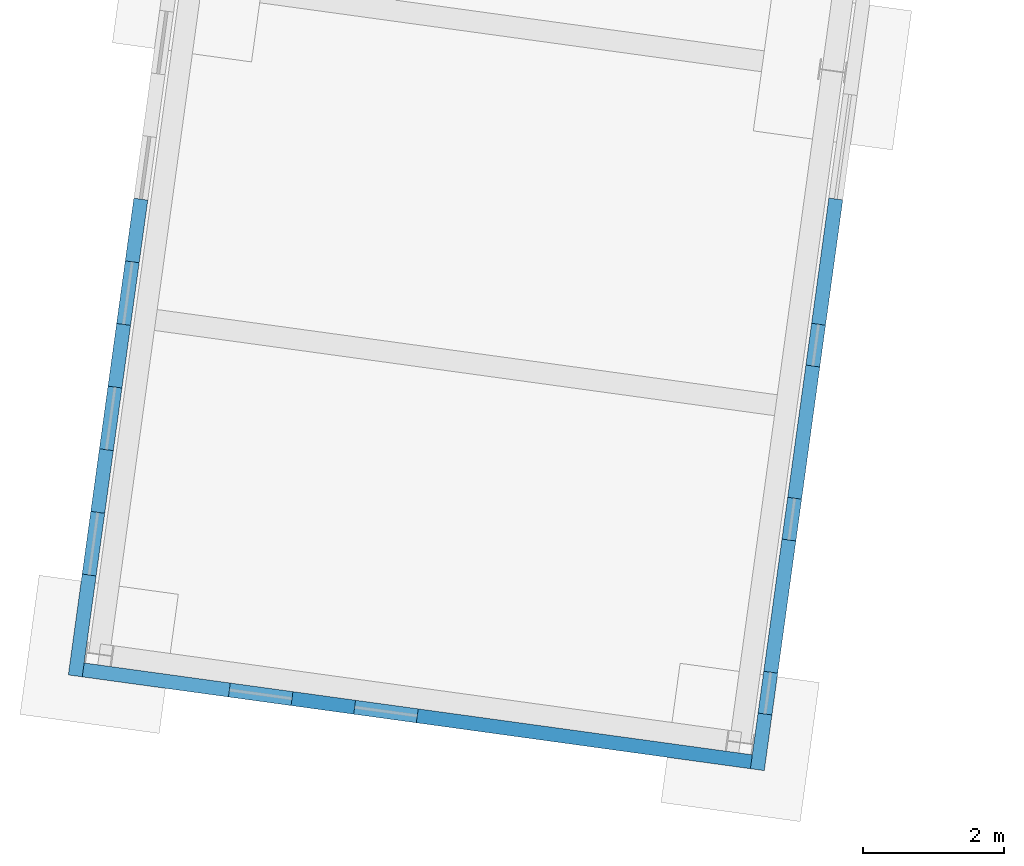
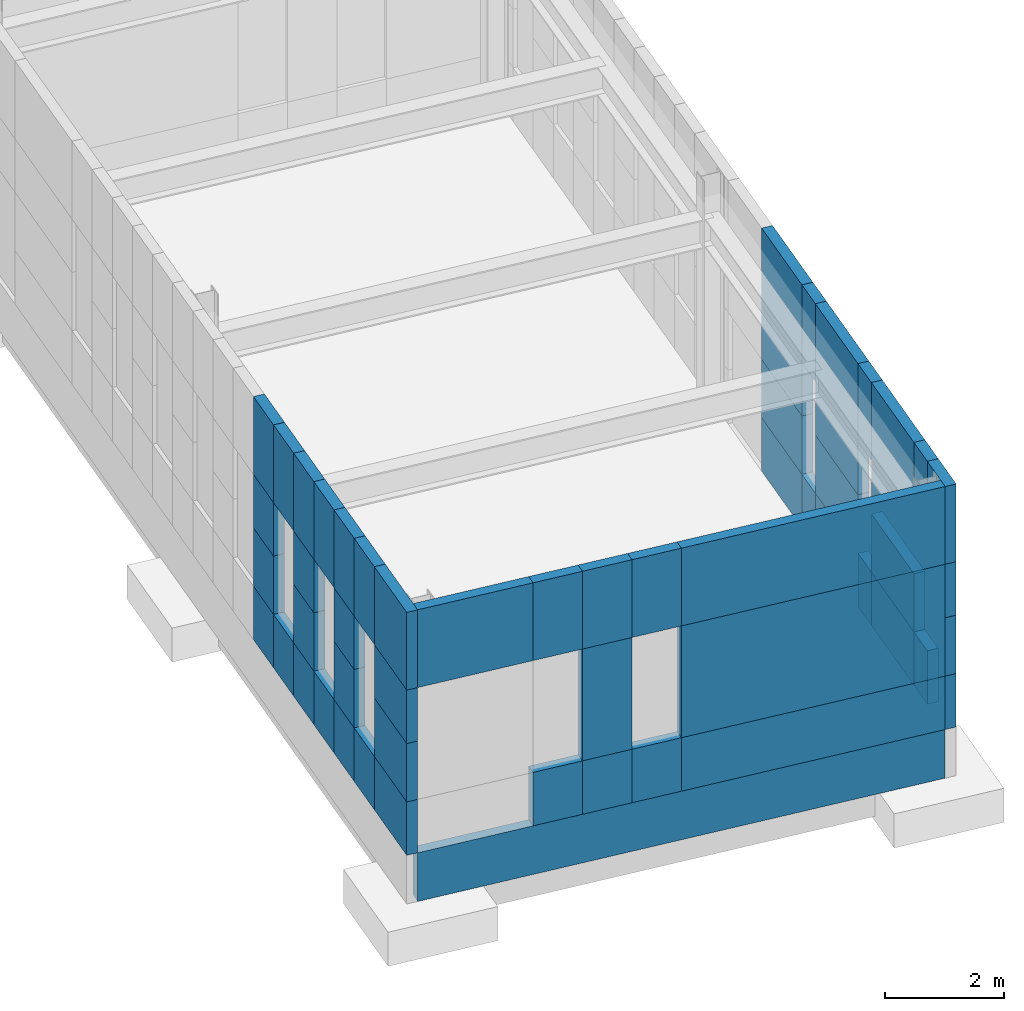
# One storey, part 2 of 5: 56 walls.
"""IFC4 building model written with IfcOpenShell, lengths in metres."""

from ifc_helpers import new_model, si_unit, direction, origin_with_axes, place, context, subcontext, project, spatial, triangles, material, element, save


model = new_model("IFC4")

# Units and contexts
model_context = context("Model", 3, precision=1e-05, world=origin_with_axes(), true_north=direction((0.0, 1.0)))
body_context = subcontext(model_context, "Body", "Model", "MODEL_VIEW")
ifc_project = project(units=[si_unit("AREAUNIT", "SQUARE_METRE"), si_unit("VOLUMEUNIT", "CUBIC_METRE"), si_unit("LENGTHUNIT", "METRE")], contexts=[model_context])

# Site, building, storey
site_placement = place(None, origin_with_axes())
site = spatial("IfcSite", under=ifc_project, at=site_placement, Name="Parcela industrial Jinhong")
building_placement = place(site_placement, origin_with_axes())
building = spatial("IfcBuilding", under=site, at=building_placement, Name="Edificio de oficinas")
storey_placement = place(building_placement, origin_with_axes())
storey = spatial("IfcBuildingStorey", under=building, at=storey_placement, Name="Planta baja", Elevation=0.9499999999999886)

# Walls
ifc_material_1 = material(Name="Bloque hueco de hormigón de árido ligero", Category="Material documentado")
wall_1_placement = place(storey_placement, origin_with_axes())
element("IfcWall", 1, at=wall_1_placement, inside=storey, material=ifc_material_1, Name="Edificio de oficinas · Fábrica de bloques huecos de hormigón de 200 mm · eje A · tramo 37", PredefinedType="STANDARD", context=body_context, shape_type="Tessellation", body=[
    triangles([(15.751554, 79.890375, 0.95), (15.62897, 78.998762, 0.95), (15.827106, 78.971522, 0.95), (15.94969, 79.863134, 0.95), (15.751554, 79.890375, 2.05), (15.62897, 78.998762, 2.05), (15.827106, 78.971522, 2.05), (15.94969, 79.863134, 2.05)], [[2, 1, 4], [4, 3, 2], [8, 5, 6], [6, 7, 8], [1, 2, 6], [1, 6, 5], [2, 3, 7], [2, 7, 6], [3, 4, 8], [3, 8, 7], [4, 1, 5], [4, 5, 8]], closed=True),
])
wall_2_placement = place(storey_placement, origin_with_axes())
element("IfcWall", 2, at=wall_2_placement, inside=storey, material=ifc_material_1, Name="Edificio de oficinas · Fábrica de bloques huecos de hormigón de 200 mm · eje A · tramo 38", PredefinedType="STANDARD", context=body_context, shape_type="Tessellation", body=[
    triangles([(15.751554, 79.890375, 2.05), (15.62897, 78.998762, 2.05), (15.827106, 78.971522, 2.05), (15.94969, 79.863134, 2.05), (15.751554, 79.890375, 3.25), (15.62897, 78.998762, 3.25), (15.827106, 78.971522, 3.25), (15.94969, 79.863134, 3.25)], [[2, 1, 4], [4, 3, 2], [8, 5, 6], [6, 7, 8], [1, 2, 6], [1, 6, 5], [2, 3, 7], [2, 7, 6], [3, 4, 8], [3, 8, 7], [4, 1, 5], [4, 5, 8]], closed=True),
])
wall_3_placement = place(storey_placement, origin_with_axes())
element("IfcWall", 3, at=wall_3_placement, inside=storey, material=ifc_material_1, Name="Edificio de oficinas · Fábrica de bloques huecos de hormigón de 200 mm · eje A · tramo 39", PredefinedType="STANDARD", context=body_context, shape_type="Tessellation", body=[
    triangles([(15.751554, 79.890375, 3.25), (15.62897, 78.998762, 3.25), (15.827106, 78.971522, 3.25), (15.94969, 79.863134, 3.25), (15.751554, 79.890375, 4.35), (15.62897, 78.998762, 4.35), (15.827106, 78.971522, 4.35), (15.94969, 79.863134, 4.35)], [[2, 1, 4], [4, 3, 2], [8, 5, 6], [6, 7, 8], [1, 2, 6], [1, 6, 5], [2, 3, 7], [2, 7, 6], [3, 4, 8], [3, 8, 7], [4, 1, 5], [4, 5, 8]], closed=True),
])
wall_4_placement = place(storey_placement, origin_with_axes())
element("IfcWall", 4, at=wall_4_placement, inside=storey, material=ifc_material_1, Name="Edificio de oficinas · Fábrica de bloques huecos de hormigón de 200 mm · eje A · tramo 40", PredefinedType="STANDARD", context=body_context, shape_type="Tessellation", body=[
    triangles([(15.751554, 79.890375, 4.35), (15.62897, 78.998762, 4.35), (15.827106, 78.971522, 4.35), (15.94969, 79.863134, 4.35), (15.751554, 79.890375, 5.95), (15.62897, 78.998762, 5.95), (15.827106, 78.971522, 5.95), (15.94969, 79.863134, 5.95)], [[2, 1, 4], [4, 3, 2], [8, 5, 6], [6, 7, 8], [1, 2, 6], [1, 6, 5], [2, 3, 7], [2, 7, 6], [3, 4, 8], [3, 8, 7], [4, 1, 5], [4, 5, 8]], closed=True),
])
wall_5_placement = place(storey_placement, origin_with_axes())
element("IfcWall", 5, at=wall_5_placement, inside=storey, material=ifc_material_1, Name="Edificio de oficinas · Fábrica de bloques huecos de hormigón de 200 mm · eje A · tramo 41", PredefinedType="STANDARD", context=body_context, shape_type="Tessellation", body=[
    triangles([(15.62897, 78.998762, 0.95), (15.506386, 78.10715, 0.95), (15.704523, 78.079909, 0.95), (15.827106, 78.971522, 0.95), (15.62897, 78.998762, 2.05), (15.506386, 78.10715, 2.05), (15.704523, 78.079909, 2.05), (15.827106, 78.971522, 2.05)], [[2, 1, 4], [4, 3, 2], [8, 5, 6], [6, 7, 8], [1, 2, 6], [1, 6, 5], [2, 3, 7], [2, 7, 6], [3, 4, 8], [3, 8, 7], [4, 1, 5], [4, 5, 8]], closed=True),
])
wall_6_placement = place(storey_placement, origin_with_axes())
element("IfcWall", 6, at=wall_6_placement, inside=storey, material=ifc_material_1, Name="Edificio de oficinas · Fábrica de bloques huecos de hormigón de 200 mm · eje A · tramo 42", PredefinedType="STANDARD", context=body_context, shape_type="Tessellation", body=[
    triangles([(15.62897, 78.998762, 4.35), (15.506386, 78.10715, 4.35), (15.704523, 78.079909, 4.35), (15.827106, 78.971522, 4.35), (15.62897, 78.998762, 5.95), (15.506386, 78.10715, 5.95), (15.704523, 78.079909, 5.95), (15.827106, 78.971522, 5.95)], [[2, 1, 4], [4, 3, 2], [8, 5, 6], [6, 7, 8], [1, 2, 6], [1, 6, 5], [2, 3, 7], [2, 7, 6], [3, 4, 8], [3, 8, 7], [4, 1, 5], [4, 5, 8]], closed=True),
])
wall_7_placement = place(storey_placement, origin_with_axes())
element("IfcWall", 7, at=wall_7_placement, inside=storey, material=ifc_material_1, Name="Edificio de oficinas · Fábrica de bloques huecos de hormigón de 200 mm · eje A · tramo 43", PredefinedType="STANDARD", context=body_context, shape_type="Tessellation", body=[
    triangles([(15.506386, 78.10715, 0.95), (15.383803, 77.215537, 0.95), (15.581939, 77.188296, 0.95), (15.704523, 78.079909, 0.95), (15.506386, 78.10715, 2.05), (15.383803, 77.215537, 2.05), (15.581939, 77.188296, 2.05), (15.704523, 78.079909, 2.05)], [[2, 1, 4], [4, 3, 2], [8, 5, 6], [6, 7, 8], [1, 2, 6], [1, 6, 5], [2, 3, 7], [2, 7, 6], [3, 4, 8], [3, 8, 7], [4, 1, 5], [4, 5, 8]], closed=True),
])
wall_8_placement = place(storey_placement, origin_with_axes())
element("IfcWall", 8, at=wall_8_placement, inside=storey, material=ifc_material_1, Name="Edificio de oficinas · Fábrica de bloques huecos de hormigón de 200 mm · eje A · tramo 44", PredefinedType="STANDARD", context=body_context, shape_type="Tessellation", body=[
    triangles([(15.506386, 78.10715, 2.05), (15.383803, 77.215537, 2.05), (15.581939, 77.188296, 2.05), (15.704523, 78.079909, 2.05), (15.506386, 78.10715, 3.25), (15.383803, 77.215537, 3.25), (15.581939, 77.188296, 3.25), (15.704523, 78.079909, 3.25)], [[2, 1, 4], [4, 3, 2], [8, 5, 6], [6, 7, 8], [1, 2, 6], [1, 6, 5], [2, 3, 7], [2, 7, 6], [3, 4, 8], [3, 8, 7], [4, 1, 5], [4, 5, 8]], closed=True),
])
wall_9_placement = place(storey_placement, origin_with_axes())
element("IfcWall", 9, at=wall_9_placement, inside=storey, material=ifc_material_1, Name="Edificio de oficinas · Fábrica de bloques huecos de hormigón de 200 mm · eje A · tramo 45", PredefinedType="STANDARD", context=body_context, shape_type="Tessellation", body=[
    triangles([(15.506386, 78.10715, 3.25), (15.383803, 77.215537, 3.25), (15.581939, 77.188296, 3.25), (15.704523, 78.079909, 3.25), (15.506386, 78.10715, 4.35), (15.383803, 77.215537, 4.35), (15.581939, 77.188296, 4.35), (15.704523, 78.079909, 4.35)], [[2, 1, 4], [4, 3, 2], [8, 5, 6], [6, 7, 8], [1, 2, 6], [1, 6, 5], [2, 3, 7], [2, 7, 6], [3, 4, 8], [3, 8, 7], [4, 1, 5], [4, 5, 8]], closed=True),
])
wall_10_placement = place(storey_placement, origin_with_axes())
element("IfcWall", 10, at=wall_10_placement, inside=storey, material=ifc_material_1, Name="Edificio de oficinas · Fábrica de bloques huecos de hormigón de 200 mm · eje A · tramo 46", PredefinedType="STANDARD", context=body_context, shape_type="Tessellation", body=[
    triangles([(15.506386, 78.10715, 4.35), (15.383803, 77.215537, 4.35), (15.581939, 77.188296, 4.35), (15.704523, 78.079909, 4.35), (15.506386, 78.10715, 5.95), (15.383803, 77.215537, 5.95), (15.581939, 77.188296, 5.95), (15.704523, 78.079909, 5.95)], [[2, 1, 4], [4, 3, 2], [8, 5, 6], [6, 7, 8], [1, 2, 6], [1, 6, 5], [2, 3, 7], [2, 7, 6], [3, 4, 8], [3, 8, 7], [4, 1, 5], [4, 5, 8]], closed=True),
])
wall_11_placement = place(storey_placement, origin_with_axes())
element("IfcWall", 11, at=wall_11_placement, inside=storey, material=ifc_material_1, Name="Edificio de oficinas · Fábrica de bloques huecos de hormigón de 200 mm · eje A · tramo 47", PredefinedType="STANDARD", context=body_context, shape_type="Tessellation", body=[
    triangles([(15.383803, 77.215537, 0.95), (15.261219, 76.323924, 0.95), (15.459356, 76.296683, 0.95), (15.581939, 77.188296, 0.95), (15.383803, 77.215537, 2.05), (15.261219, 76.323924, 2.05), (15.459356, 76.296683, 2.05), (15.581939, 77.188296, 2.05)], [[2, 1, 4], [4, 3, 2], [8, 5, 6], [6, 7, 8], [1, 2, 6], [1, 6, 5], [2, 3, 7], [2, 7, 6], [3, 4, 8], [3, 8, 7], [4, 1, 5], [4, 5, 8]], closed=True),
])
wall_12_placement = place(storey_placement, origin_with_axes())
element("IfcWall", 12, at=wall_12_placement, inside=storey, material=ifc_material_1, Name="Edificio de oficinas · Fábrica de bloques huecos de hormigón de 200 mm · eje A · tramo 48", PredefinedType="STANDARD", context=body_context, shape_type="Tessellation", body=[
    triangles([(15.383803, 77.215537, 4.35), (15.261219, 76.323924, 4.35), (15.459356, 76.296683, 4.35), (15.581939, 77.188296, 4.35), (15.383803, 77.215537, 5.95), (15.261219, 76.323924, 5.95), (15.459356, 76.296683, 5.95), (15.581939, 77.188296, 5.95)], [[2, 1, 4], [4, 3, 2], [8, 5, 6], [6, 7, 8], [1, 2, 6], [1, 6, 5], [2, 3, 7], [2, 7, 6], [3, 4, 8], [3, 8, 7], [4, 1, 5], [4, 5, 8]], closed=True),
])
wall_13_placement = place(storey_placement, origin_with_axes())
element("IfcWall", 13, at=wall_13_placement, inside=storey, material=ifc_material_1, Name="Edificio de oficinas · Fábrica de bloques huecos de hormigón de 200 mm · eje A · tramo 49", PredefinedType="STANDARD", context=body_context, shape_type="Tessellation", body=[
    triangles([(15.261219, 76.323924, 0.95), (15.138636, 75.432311, 0.95), (15.336772, 75.405071, 0.95), (15.459356, 76.296683, 0.95), (15.261219, 76.323924, 2.05), (15.138636, 75.432311, 2.05), (15.336772, 75.405071, 2.05), (15.459356, 76.296683, 2.05)], [[2, 1, 4], [4, 3, 2], [8, 5, 6], [6, 7, 8], [1, 2, 6], [1, 6, 5], [2, 3, 7], [2, 7, 6], [3, 4, 8], [3, 8, 7], [4, 1, 5], [4, 5, 8]], closed=True),
])
wall_14_placement = place(storey_placement, origin_with_axes())
element("IfcWall", 14, at=wall_14_placement, inside=storey, material=ifc_material_1, Name="Edificio de oficinas · Fábrica de bloques huecos de hormigón de 200 mm · eje A · tramo 50", PredefinedType="STANDARD", context=body_context, shape_type="Tessellation", body=[
    triangles([(15.261219, 76.323924, 2.05), (15.138636, 75.432311, 2.05), (15.336772, 75.405071, 2.05), (15.459356, 76.296683, 2.05), (15.261219, 76.323924, 3.25), (15.138636, 75.432311, 3.25), (15.336772, 75.405071, 3.25), (15.459356, 76.296683, 3.25)], [[2, 1, 4], [4, 3, 2], [8, 5, 6], [6, 7, 8], [1, 2, 6], [1, 6, 5], [2, 3, 7], [2, 7, 6], [3, 4, 8], [3, 8, 7], [4, 1, 5], [4, 5, 8]], closed=True),
])
wall_15_placement = place(storey_placement, origin_with_axes())
element("IfcWall", 15, at=wall_15_placement, inside=storey, material=ifc_material_1, Name="Edificio de oficinas · Fábrica de bloques huecos de hormigón de 200 mm · eje A · tramo 51", PredefinedType="STANDARD", context=body_context, shape_type="Tessellation", body=[
    triangles([(15.261219, 76.323924, 3.25), (15.138636, 75.432311, 3.25), (15.336772, 75.405071, 3.25), (15.459356, 76.296683, 3.25), (15.261219, 76.323924, 4.35), (15.138636, 75.432311, 4.35), (15.336772, 75.405071, 4.35), (15.459356, 76.296683, 4.35)], [[2, 1, 4], [4, 3, 2], [8, 5, 6], [6, 7, 8], [1, 2, 6], [1, 6, 5], [2, 3, 7], [2, 7, 6], [3, 4, 8], [3, 8, 7], [4, 1, 5], [4, 5, 8]], closed=True),
])
wall_16_placement = place(storey_placement, origin_with_axes())
element("IfcWall", 16, at=wall_16_placement, inside=storey, material=ifc_material_1, Name="Edificio de oficinas · Fábrica de bloques huecos de hormigón de 200 mm · eje A · tramo 52", PredefinedType="STANDARD", context=body_context, shape_type="Tessellation", body=[
    triangles([(15.261219, 76.323924, 4.35), (15.138636, 75.432311, 4.35), (15.336772, 75.405071, 4.35), (15.459356, 76.296683, 4.35), (15.261219, 76.323924, 5.95), (15.138636, 75.432311, 5.95), (15.336772, 75.405071, 5.95), (15.459356, 76.296683, 5.95)], [[2, 1, 4], [4, 3, 2], [8, 5, 6], [6, 7, 8], [1, 2, 6], [1, 6, 5], [2, 3, 7], [2, 7, 6], [3, 4, 8], [3, 8, 7], [4, 1, 5], [4, 5, 8]], closed=True),
])
wall_17_placement = place(storey_placement, origin_with_axes())
element("IfcWall", 17, at=wall_17_placement, inside=storey, material=ifc_material_1, Name="Edificio de oficinas · Fábrica de bloques huecos de hormigón de 200 mm · eje A · tramo 53", PredefinedType="STANDARD", context=body_context, shape_type="Tessellation", body=[
    triangles([(15.138636, 75.432311, 0.95), (15.016052, 74.540699, 0.95), (15.214188, 74.513458, 0.95), (15.336772, 75.405071, 0.95), (15.138636, 75.432311, 2.05), (15.016052, 74.540699, 2.05), (15.214188, 74.513458, 2.05), (15.336772, 75.405071, 2.05)], [[2, 1, 4], [4, 3, 2], [8, 5, 6], [6, 7, 8], [1, 2, 6], [1, 6, 5], [2, 3, 7], [2, 7, 6], [3, 4, 8], [3, 8, 7], [4, 1, 5], [4, 5, 8]], closed=True),
])
wall_18_placement = place(storey_placement, origin_with_axes())
element("IfcWall", 18, at=wall_18_placement, inside=storey, material=ifc_material_1, Name="Edificio de oficinas · Fábrica de bloques huecos de hormigón de 200 mm · eje A · tramo 54", PredefinedType="STANDARD", context=body_context, shape_type="Tessellation", body=[
    triangles([(15.138636, 75.432311, 4.35), (15.016052, 74.540699, 4.35), (15.214188, 74.513458, 4.35), (15.336772, 75.405071, 4.35), (15.138636, 75.432311, 5.95), (15.016052, 74.540699, 5.95), (15.214188, 74.513458, 5.95), (15.336772, 75.405071, 5.95)], [[2, 1, 4], [4, 3, 2], [8, 5, 6], [6, 7, 8], [1, 2, 6], [1, 6, 5], [2, 3, 7], [2, 7, 6], [3, 4, 8], [3, 8, 7], [4, 1, 5], [4, 5, 8]], closed=True),
])
wall_19_placement = place(storey_placement, origin_with_axes())
element("IfcWall", 19, at=wall_19_placement, inside=storey, material=ifc_material_1, Name="Edificio de oficinas · Fábrica de bloques huecos de hormigón de 200 mm · eje A · tramo 55", PredefinedType="STANDARD", context=body_context, shape_type="Tessellation", body=[
    triangles([(15.016052, 74.540699, 0.95), (14.818557, 73.104211, 0.95), (15.016693, 73.076971, 0.95), (15.214188, 74.513458, 0.95), (15.016052, 74.540699, 2.05), (14.818557, 73.104211, 2.05), (15.016693, 73.076971, 2.05), (15.214188, 74.513458, 2.05)], [[2, 1, 4], [4, 3, 2], [8, 5, 6], [6, 7, 8], [1, 2, 6], [1, 6, 5], [2, 3, 7], [2, 7, 6], [3, 4, 8], [3, 8, 7], [4, 1, 5], [4, 5, 8]], closed=True),
])
wall_20_placement = place(storey_placement, origin_with_axes())
element("IfcWall", 20, at=wall_20_placement, inside=storey, material=ifc_material_1, Name="Edificio de oficinas · Fábrica de bloques huecos de hormigón de 200 mm · eje A · tramo 56", PredefinedType="STANDARD", context=body_context, shape_type="Tessellation", body=[
    triangles([(15.016052, 74.540699, 2.05), (14.818557, 73.104211, 2.05), (15.016693, 73.076971, 2.05), (15.214188, 74.513458, 2.05), (15.016052, 74.540699, 3.25), (14.818557, 73.104211, 3.25), (15.016693, 73.076971, 3.25), (15.214188, 74.513458, 3.25)], [[2, 1, 4], [4, 3, 2], [8, 5, 6], [6, 7, 8], [1, 2, 6], [1, 6, 5], [2, 3, 7], [2, 7, 6], [3, 4, 8], [3, 8, 7], [4, 1, 5], [4, 5, 8]], closed=True),
])
wall_21_placement = place(storey_placement, origin_with_axes())
element("IfcWall", 21, at=wall_21_placement, inside=storey, material=ifc_material_1, Name="Edificio de oficinas · Fábrica de bloques huecos de hormigón de 200 mm · eje A · tramo 57", PredefinedType="STANDARD", context=body_context, shape_type="Tessellation", body=[
    triangles([(15.016052, 74.540699, 3.25), (14.818557, 73.104211, 3.25), (15.016693, 73.076971, 3.25), (15.214188, 74.513458, 3.25), (15.016052, 74.540699, 4.35), (14.818557, 73.104211, 4.35), (15.016693, 73.076971, 4.35), (15.214188, 74.513458, 4.35)], [[2, 1, 4], [4, 3, 2], [8, 5, 6], [6, 7, 8], [1, 2, 6], [1, 6, 5], [2, 3, 7], [2, 7, 6], [3, 4, 8], [3, 8, 7], [4, 1, 5], [4, 5, 8]], closed=True),
])
wall_22_placement = place(storey_placement, origin_with_axes())
element("IfcWall", 22, at=wall_22_placement, inside=storey, material=ifc_material_1, Name="Edificio de oficinas · Fábrica de bloques huecos de hormigón de 200 mm · eje A · tramo 58", PredefinedType="STANDARD", context=body_context, shape_type="Tessellation", body=[
    triangles([(15.016052, 74.540699, 4.35), (14.818557, 73.104211, 4.35), (15.016693, 73.076971, 4.35), (15.214188, 74.513458, 4.35), (15.016052, 74.540699, 5.95), (14.818557, 73.104211, 5.95), (15.016693, 73.076971, 5.95), (15.214188, 74.513458, 5.95)], [[2, 1, 4], [4, 3, 2], [8, 5, 6], [6, 7, 8], [1, 2, 6], [1, 6, 5], [2, 3, 7], [2, 7, 6], [3, 4, 8], [3, 8, 7], [4, 1, 5], [4, 5, 8]], closed=True),
])
wall_23_placement = place(storey_placement, origin_with_axes())
element("IfcWall", 23, at=wall_23_placement, inside=storey, material=ifc_material_1, Name="Edificio de oficinas · Fábrica de bloques huecos de hormigón de 200 mm · eje B · tramo 37", PredefinedType="STANDARD", context=body_context, shape_type="Tessellation", body=[
    triangles([(25.644101, 79.892996, 0.95), (25.398934, 78.10977, 0.95), (25.59707, 78.082529, 0.95), (25.842237, 79.865755, 0.95), (25.644101, 79.892996, 2.05), (25.398934, 78.10977, 2.05), (25.59707, 78.082529, 2.05), (25.842237, 79.865755, 2.05)], [[2, 1, 4], [4, 3, 2], [8, 5, 6], [6, 7, 8], [1, 2, 6], [1, 6, 5], [2, 3, 7], [2, 7, 6], [3, 4, 8], [3, 8, 7], [4, 1, 5], [4, 5, 8]], closed=True),
])
wall_24_placement = place(storey_placement, origin_with_axes())
element("IfcWall", 24, at=wall_24_placement, inside=storey, material=ifc_material_1, Name="Edificio de oficinas · Fábrica de bloques huecos de hormigón de 200 mm · eje B · tramo 38", PredefinedType="STANDARD", context=body_context, shape_type="Tessellation", body=[
    triangles([(25.644101, 79.892996, 2.05), (25.398934, 78.10977, 2.05), (25.59707, 78.082529, 2.05), (25.842237, 79.865755, 2.05), (25.644101, 79.892996, 3.25), (25.398934, 78.10977, 3.25), (25.59707, 78.082529, 3.25), (25.842237, 79.865755, 3.25)], [[2, 1, 4], [4, 3, 2], [8, 5, 6], [6, 7, 8], [1, 2, 6], [1, 6, 5], [2, 3, 7], [2, 7, 6], [3, 4, 8], [3, 8, 7], [4, 1, 5], [4, 5, 8]], closed=True),
])
wall_25_placement = place(storey_placement, origin_with_axes())
element("IfcWall", 25, at=wall_25_placement, inside=storey, material=ifc_material_1, Name="Edificio de oficinas · Fábrica de bloques huecos de hormigón de 200 mm · eje B · tramo 39", PredefinedType="STANDARD", context=body_context, shape_type="Tessellation", body=[
    triangles([(25.644101, 79.892996, 3.25), (25.398934, 78.10977, 3.25), (25.59707, 78.082529, 3.25), (25.842237, 79.865755, 3.25), (25.644101, 79.892996, 4.35), (25.398934, 78.10977, 4.35), (25.59707, 78.082529, 4.35), (25.842237, 79.865755, 4.35)], [[2, 1, 4], [4, 3, 2], [8, 5, 6], [6, 7, 8], [1, 2, 6], [1, 6, 5], [2, 3, 7], [2, 7, 6], [3, 4, 8], [3, 8, 7], [4, 1, 5], [4, 5, 8]], closed=True),
])
wall_26_placement = place(storey_placement, origin_with_axes())
element("IfcWall", 26, at=wall_26_placement, inside=storey, material=ifc_material_1, Name="Edificio de oficinas · Fábrica de bloques huecos de hormigón de 200 mm · eje B · tramo 40", PredefinedType="STANDARD", context=body_context, shape_type="Tessellation", body=[
    triangles([(25.644101, 79.892996, 4.35), (25.398934, 78.10977, 4.35), (25.59707, 78.082529, 4.35), (25.842237, 79.865755, 4.35), (25.644101, 79.892996, 5.95), (25.398934, 78.10977, 5.95), (25.59707, 78.082529, 5.95), (25.842237, 79.865755, 5.95)], [[2, 1, 4], [4, 3, 2], [8, 5, 6], [6, 7, 8], [1, 2, 6], [1, 6, 5], [2, 3, 7], [2, 7, 6], [3, 4, 8], [3, 8, 7], [4, 1, 5], [4, 5, 8]], closed=True),
])
wall_27_placement = place(storey_placement, origin_with_axes())
element("IfcWall", 27, at=wall_27_placement, inside=storey, material=ifc_material_1, Name="Edificio de oficinas · Fábrica de bloques huecos de hormigón de 200 mm · eje B · tramo 41", PredefinedType="STANDARD", context=body_context, shape_type="Tessellation", body=[
    triangles([(25.398934, 78.10977, 0.95), (25.317211, 77.515362, 0.95), (25.515348, 77.488121, 0.95), (25.59707, 78.082529, 0.95), (25.398934, 78.10977, 2.05), (25.317211, 77.515362, 2.05), (25.515348, 77.488121, 2.05), (25.59707, 78.082529, 2.05)], [[2, 1, 4], [4, 3, 2], [8, 5, 6], [6, 7, 8], [1, 2, 6], [1, 6, 5], [2, 3, 7], [2, 7, 6], [3, 4, 8], [3, 8, 7], [4, 1, 5], [4, 5, 8]], closed=True),
])
wall_28_placement = place(storey_placement, origin_with_axes())
element("IfcWall", 28, at=wall_28_placement, inside=storey, material=ifc_material_1, Name="Edificio de oficinas · Fábrica de bloques huecos de hormigón de 200 mm · eje B · tramo 42", PredefinedType="STANDARD", context=body_context, shape_type="Tessellation", body=[
    triangles([(25.398934, 78.10977, 4.35), (25.317211, 77.515362, 4.35), (25.515348, 77.488121, 4.35), (25.59707, 78.082529, 4.35), (25.398934, 78.10977, 5.95), (25.317211, 77.515362, 5.95), (25.515348, 77.488121, 5.95), (25.59707, 78.082529, 5.95)], [[2, 1, 4], [4, 3, 2], [8, 5, 6], [6, 7, 8], [1, 2, 6], [1, 6, 5], [2, 3, 7], [2, 7, 6], [3, 4, 8], [3, 8, 7], [4, 1, 5], [4, 5, 8]], closed=True),
])
wall_29_placement = place(storey_placement, origin_with_axes())
element("IfcWall", 29, at=wall_29_placement, inside=storey, material=ifc_material_1, Name="Edificio de oficinas · Fábrica de bloques huecos de hormigón de 200 mm · eje B · tramo 43", PredefinedType="STANDARD", context=body_context, shape_type="Tessellation", body=[
    triangles([(25.317211, 77.515362, 0.95), (25.058424, 75.633068, 0.95), (25.25656, 75.605827, 0.95), (25.515348, 77.488121, 0.95), (25.317211, 77.515362, 2.05), (25.058424, 75.633068, 2.05), (25.25656, 75.605827, 2.05), (25.515348, 77.488121, 2.05)], [[2, 1, 4], [4, 3, 2], [8, 5, 6], [6, 7, 8], [1, 2, 6], [1, 6, 5], [2, 3, 7], [2, 7, 6], [3, 4, 8], [3, 8, 7], [4, 1, 5], [4, 5, 8]], closed=True),
])
wall_30_placement = place(storey_placement, origin_with_axes())
element("IfcWall", 30, at=wall_30_placement, inside=storey, material=ifc_material_1, Name="Edificio de oficinas · Fábrica de bloques huecos de hormigón de 200 mm · eje B · tramo 44", PredefinedType="STANDARD", context=body_context, shape_type="Tessellation", body=[
    triangles([(25.317211, 77.515362, 2.05), (25.058424, 75.633068, 2.05), (25.25656, 75.605827, 2.05), (25.515348, 77.488121, 2.05), (25.317211, 77.515362, 3.25), (25.058424, 75.633068, 3.25), (25.25656, 75.605827, 3.25), (25.515348, 77.488121, 3.25)], [[2, 1, 4], [4, 3, 2], [8, 5, 6], [6, 7, 8], [1, 2, 6], [1, 6, 5], [2, 3, 7], [2, 7, 6], [3, 4, 8], [3, 8, 7], [4, 1, 5], [4, 5, 8]], closed=True),
])
wall_31_placement = place(storey_placement, origin_with_axes())
element("IfcWall", 31, at=wall_31_placement, inside=storey, material=ifc_material_1, Name="Edificio de oficinas · Fábrica de bloques huecos de hormigón de 200 mm · eje B · tramo 45", PredefinedType="STANDARD", context=body_context, shape_type="Tessellation", body=[
    triangles([(25.317211, 77.515362, 3.25), (25.058424, 75.633068, 3.25), (25.25656, 75.605827, 3.25), (25.515348, 77.488121, 3.25), (25.317211, 77.515362, 4.35), (25.058424, 75.633068, 4.35), (25.25656, 75.605827, 4.35), (25.515348, 77.488121, 4.35)], [[2, 1, 4], [4, 3, 2], [8, 5, 6], [6, 7, 8], [1, 2, 6], [1, 6, 5], [2, 3, 7], [2, 7, 6], [3, 4, 8], [3, 8, 7], [4, 1, 5], [4, 5, 8]], closed=True),
])
wall_32_placement = place(storey_placement, origin_with_axes())
element("IfcWall", 32, at=wall_32_placement, inside=storey, material=ifc_material_1, Name="Edificio de oficinas · Fábrica de bloques huecos de hormigón de 200 mm · eje B · tramo 46", PredefinedType="STANDARD", context=body_context, shape_type="Tessellation", body=[
    triangles([(25.317211, 77.515362, 4.35), (25.058424, 75.633068, 4.35), (25.25656, 75.605827, 4.35), (25.515348, 77.488121, 4.35), (25.317211, 77.515362, 5.95), (25.058424, 75.633068, 5.95), (25.25656, 75.605827, 5.95), (25.515348, 77.488121, 5.95)], [[2, 1, 4], [4, 3, 2], [8, 5, 6], [6, 7, 8], [1, 2, 6], [1, 6, 5], [2, 3, 7], [2, 7, 6], [3, 4, 8], [3, 8, 7], [4, 1, 5], [4, 5, 8]], closed=True),
])
wall_33_placement = place(storey_placement, origin_with_axes())
element("IfcWall", 33, at=wall_33_placement, inside=storey, material=ifc_material_1, Name="Edificio de oficinas · Fábrica de bloques huecos de hormigón de 200 mm · eje B · tramo 47", PredefinedType="STANDARD", context=body_context, shape_type="Tessellation", body=[
    triangles([(25.058424, 75.633068, 0.95), (24.976702, 75.03866, 0.95), (25.174838, 75.011419, 0.95), (25.25656, 75.605827, 0.95), (25.058424, 75.633068, 2.05), (24.976702, 75.03866, 2.05), (25.174838, 75.011419, 2.05), (25.25656, 75.605827, 2.05)], [[2, 1, 4], [4, 3, 2], [8, 5, 6], [6, 7, 8], [1, 2, 6], [1, 6, 5], [2, 3, 7], [2, 7, 6], [3, 4, 8], [3, 8, 7], [4, 1, 5], [4, 5, 8]], closed=True),
])
wall_34_placement = place(storey_placement, origin_with_axes())
element("IfcWall", 34, at=wall_34_placement, inside=storey, material=ifc_material_1, Name="Edificio de oficinas · Fábrica de bloques huecos de hormigón de 200 mm · eje B · tramo 48", PredefinedType="STANDARD", context=body_context, shape_type="Tessellation", body=[
    triangles([(25.058424, 75.633068, 4.35), (24.976702, 75.03866, 4.35), (25.174838, 75.011419, 4.35), (25.25656, 75.605827, 4.35), (25.058424, 75.633068, 5.95), (24.976702, 75.03866, 5.95), (25.174838, 75.011419, 5.95), (25.25656, 75.605827, 5.95)], [[2, 1, 4], [4, 3, 2], [8, 5, 6], [6, 7, 8], [1, 2, 6], [1, 6, 5], [2, 3, 7], [2, 7, 6], [3, 4, 8], [3, 8, 7], [4, 1, 5], [4, 5, 8]], closed=True),
])
wall_35_placement = place(storey_placement, origin_with_axes())
element("IfcWall", 35, at=wall_35_placement, inside=storey, material=ifc_material_1, Name="Edificio de oficinas · Fábrica de bloques huecos de hormigón de 200 mm · eje B · tramo 49", PredefinedType="STANDARD", context=body_context, shape_type="Tessellation", body=[
    triangles([(24.976702, 75.03866, 0.95), (24.717914, 73.156366, 0.95), (24.91605, 73.129125, 0.95), (25.174838, 75.011419, 0.95), (24.976702, 75.03866, 2.05), (24.717914, 73.156366, 2.05), (24.91605, 73.129125, 2.05), (25.174838, 75.011419, 2.05)], [[2, 1, 4], [4, 3, 2], [8, 5, 6], [6, 7, 8], [1, 2, 6], [1, 6, 5], [2, 3, 7], [2, 7, 6], [3, 4, 8], [3, 8, 7], [4, 1, 5], [4, 5, 8]], closed=True),
])
wall_36_placement = place(storey_placement, origin_with_axes())
element("IfcWall", 36, at=wall_36_placement, inside=storey, material=ifc_material_1, Name="Edificio de oficinas · Fábrica de bloques huecos de hormigón de 200 mm · eje B · tramo 50", PredefinedType="STANDARD", context=body_context, shape_type="Tessellation", body=[
    triangles([(24.976702, 75.03866, 2.05), (24.717914, 73.156366, 2.05), (24.91605, 73.129125, 2.05), (25.174838, 75.011419, 2.05), (24.976702, 75.03866, 3.25), (24.717914, 73.156366, 3.25), (24.91605, 73.129125, 3.25), (25.174838, 75.011419, 3.25)], [[2, 1, 4], [4, 3, 2], [8, 5, 6], [6, 7, 8], [1, 2, 6], [1, 6, 5], [2, 3, 7], [2, 7, 6], [3, 4, 8], [3, 8, 7], [4, 1, 5], [4, 5, 8]], closed=True),
])
wall_37_placement = place(storey_placement, origin_with_axes())
element("IfcWall", 37, at=wall_37_placement, inside=storey, material=ifc_material_1, Name="Edificio de oficinas · Fábrica de bloques huecos de hormigón de 200 mm · eje B · tramo 51", PredefinedType="STANDARD", context=body_context, shape_type="Tessellation", body=[
    triangles([(24.976702, 75.03866, 3.25), (24.717914, 73.156366, 3.25), (24.91605, 73.129125, 3.25), (25.174838, 75.011419, 3.25), (24.976702, 75.03866, 4.35), (24.717914, 73.156366, 4.35), (24.91605, 73.129125, 4.35), (25.174838, 75.011419, 4.35)], [[2, 1, 4], [4, 3, 2], [8, 5, 6], [6, 7, 8], [1, 2, 6], [1, 6, 5], [2, 3, 7], [2, 7, 6], [3, 4, 8], [3, 8, 7], [4, 1, 5], [4, 5, 8]], closed=True),
])
wall_38_placement = place(storey_placement, origin_with_axes())
element("IfcWall", 38, at=wall_38_placement, inside=storey, material=ifc_material_1, Name="Edificio de oficinas · Fábrica de bloques huecos de hormigón de 200 mm · eje B · tramo 52", PredefinedType="STANDARD", context=body_context, shape_type="Tessellation", body=[
    triangles([(24.976702, 75.03866, 4.35), (24.717914, 73.156366, 4.35), (24.91605, 73.129125, 4.35), (25.174838, 75.011419, 4.35), (24.976702, 75.03866, 5.95), (24.717914, 73.156366, 5.95), (24.91605, 73.129125, 5.95), (25.174838, 75.011419, 5.95)], [[2, 1, 4], [4, 3, 2], [8, 5, 6], [6, 7, 8], [1, 2, 6], [1, 6, 5], [2, 3, 7], [2, 7, 6], [3, 4, 8], [3, 8, 7], [4, 1, 5], [4, 5, 8]], closed=True),
])
wall_39_placement = place(storey_placement, origin_with_axes())
element("IfcWall", 39, at=wall_39_placement, inside=storey, material=ifc_material_1, Name="Edificio de oficinas · Fábrica de bloques huecos de hormigón de 200 mm · eje B · tramo 53", PredefinedType="STANDARD", context=body_context, shape_type="Tessellation", body=[
    triangles([(24.717914, 73.156366, 0.95), (24.636192, 72.561958, 0.95), (24.834328, 72.534717, 0.95), (24.91605, 73.129125, 0.95), (24.717914, 73.156366, 2.05), (24.636192, 72.561958, 2.05), (24.834328, 72.534717, 2.05), (24.91605, 73.129125, 2.05)], [[2, 1, 4], [4, 3, 2], [8, 5, 6], [6, 7, 8], [1, 2, 6], [1, 6, 5], [2, 3, 7], [2, 7, 6], [3, 4, 8], [3, 8, 7], [4, 1, 5], [4, 5, 8]], closed=True),
])
wall_40_placement = place(storey_placement, origin_with_axes())
element("IfcWall", 40, at=wall_40_placement, inside=storey, material=ifc_material_1, Name="Edificio de oficinas · Fábrica de bloques huecos de hormigón de 200 mm · eje B · tramo 54", PredefinedType="STANDARD", context=body_context, shape_type="Tessellation", body=[
    triangles([(24.717914, 73.156366, 4.35), (24.636192, 72.561958, 4.35), (24.834328, 72.534717, 4.35), (24.91605, 73.129125, 4.35), (24.717914, 73.156366, 5.95), (24.636192, 72.561958, 5.95), (24.834328, 72.534717, 5.95), (24.91605, 73.129125, 5.95)], [[2, 1, 4], [4, 3, 2], [8, 5, 6], [6, 7, 8], [1, 2, 6], [1, 6, 5], [2, 3, 7], [2, 7, 6], [3, 4, 8], [3, 8, 7], [4, 1, 5], [4, 5, 8]], closed=True),
])
wall_41_placement = place(storey_placement, origin_with_axes())
element("IfcWall", 41, at=wall_41_placement, inside=storey, material=ifc_material_1, Name="Edificio de oficinas · Fábrica de bloques huecos de hormigón de 200 mm · eje B · tramo 55", PredefinedType="STANDARD", context=body_context, shape_type="Tessellation", body=[
    triangles([(24.636192, 72.561958, 0.95), (24.527229, 71.769413, 0.95), (24.725365, 71.742172, 0.95), (24.834328, 72.534717, 0.95), (24.636192, 72.561958, 2.05), (24.527229, 71.769413, 2.05), (24.725365, 71.742172, 2.05), (24.834328, 72.534717, 2.05)], [[2, 1, 4], [4, 3, 2], [8, 5, 6], [6, 7, 8], [1, 2, 6], [1, 6, 5], [2, 3, 7], [2, 7, 6], [3, 4, 8], [3, 8, 7], [4, 1, 5], [4, 5, 8]], closed=True),
])
wall_42_placement = place(storey_placement, origin_with_axes())
element("IfcWall", 42, at=wall_42_placement, inside=storey, material=ifc_material_1, Name="Edificio de oficinas · Fábrica de bloques huecos de hormigón de 200 mm · eje B · tramo 56", PredefinedType="STANDARD", context=body_context, shape_type="Tessellation", body=[
    triangles([(24.636192, 72.561958, 2.05), (24.527229, 71.769413, 2.05), (24.725365, 71.742172, 2.05), (24.834328, 72.534717, 2.05), (24.636192, 72.561958, 3.25), (24.527229, 71.769413, 3.25), (24.725365, 71.742172, 3.25), (24.834328, 72.534717, 3.25)], [[2, 1, 4], [4, 3, 2], [8, 5, 6], [6, 7, 8], [1, 2, 6], [1, 6, 5], [2, 3, 7], [2, 7, 6], [3, 4, 8], [3, 8, 7], [4, 1, 5], [4, 5, 8]], closed=True),
])
wall_43_placement = place(storey_placement, origin_with_axes())
element("IfcWall", 43, at=wall_43_placement, inside=storey, material=ifc_material_1, Name="Edificio de oficinas · Fábrica de bloques huecos de hormigón de 200 mm · eje B · tramo 57", PredefinedType="STANDARD", context=body_context, shape_type="Tessellation", body=[
    triangles([(24.636192, 72.561958, 3.25), (24.527229, 71.769413, 3.25), (24.725365, 71.742172, 3.25), (24.834328, 72.534717, 3.25), (24.636192, 72.561958, 4.35), (24.527229, 71.769413, 4.35), (24.725365, 71.742172, 4.35), (24.834328, 72.534717, 4.35)], [[2, 1, 4], [4, 3, 2], [8, 5, 6], [6, 7, 8], [1, 2, 6], [1, 6, 5], [2, 3, 7], [2, 7, 6], [3, 4, 8], [3, 8, 7], [4, 1, 5], [4, 5, 8]], closed=True),
])
wall_44_placement = place(storey_placement, origin_with_axes())
element("IfcWall", 44, at=wall_44_placement, inside=storey, material=ifc_material_1, Name="Edificio de oficinas · Fábrica de bloques huecos de hormigón de 200 mm · eje B · tramo 58", PredefinedType="STANDARD", context=body_context, shape_type="Tessellation", body=[
    triangles([(24.636192, 72.561958, 4.35), (24.527229, 71.769413, 4.35), (24.725365, 71.742172, 4.35), (24.834328, 72.534717, 4.35), (24.636192, 72.561958, 5.95), (24.527229, 71.769413, 5.95), (24.725365, 71.742172, 5.95), (24.834328, 72.534717, 5.95)], [[2, 1, 4], [4, 3, 2], [8, 5, 6], [6, 7, 8], [1, 2, 6], [1, 6, 5], [2, 3, 7], [2, 7, 6], [3, 4, 8], [3, 8, 7], [4, 1, 5], [4, 5, 8]], closed=True),
])
wall_45_placement = place(storey_placement, origin_with_axes())
element("IfcWall", 45, at=wall_45_placement, inside=storey, material=ifc_material_1, Name="Edificio de oficinas · Fábrica de bloques huecos de hormigón de 200 mm · eje 3 · tramo 03", PredefinedType="STANDARD", context=body_context, shape_type="Tessellation", body=[
    triangles([(15.043934, 73.275107, 4.35), (15.016693, 73.076971, 4.35), (17.097123, 72.790942, 4.35), (17.124363, 72.989079, 4.35), (15.043934, 73.275107, 5.95), (15.016693, 73.076971, 5.95), (17.097123, 72.790942, 5.95), (17.124363, 72.989079, 5.95)], [[2, 1, 4], [4, 3, 2], [8, 5, 6], [6, 7, 8], [1, 2, 6], [1, 6, 5], [2, 3, 7], [2, 7, 6], [3, 4, 8], [3, 8, 7], [4, 1, 5], [4, 5, 8]], closed=True),
])
wall_46_placement = place(storey_placement, origin_with_axes())
element("IfcWall", 46, at=wall_46_placement, inside=storey, material=ifc_material_1, Name="Edificio de oficinas · Fábrica de bloques huecos de hormigón de 200 mm · eje 3 · tramo 04", PredefinedType="STANDARD", context=body_context, shape_type="Tessellation", body=[
    triangles([(17.124363, 72.989079, 0.95), (17.097123, 72.790942, 0.95), (17.988735, 72.668359, 0.95), (18.015976, 72.866495, 0.95), (17.124363, 72.989079, 2.05), (17.097123, 72.790942, 2.05), (17.988735, 72.668359, 2.05), (18.015976, 72.866495, 2.05)], [[2, 1, 4], [4, 3, 2], [8, 5, 6], [6, 7, 8], [1, 2, 6], [1, 6, 5], [2, 3, 7], [2, 7, 6], [3, 4, 8], [3, 8, 7], [4, 1, 5], [4, 5, 8]], closed=True),
])
wall_47_placement = place(storey_placement, origin_with_axes())
element("IfcWall", 47, at=wall_47_placement, inside=storey, material=ifc_material_1, Name="Edificio de oficinas · Fábrica de bloques huecos de hormigón de 200 mm · eje 3 · tramo 05", PredefinedType="STANDARD", context=body_context, shape_type="Tessellation", body=[
    triangles([(17.124363, 72.989079, 4.35), (17.097123, 72.790942, 4.35), (17.988735, 72.668359, 4.35), (18.015976, 72.866495, 4.35), (17.124363, 72.989079, 5.95), (17.097123, 72.790942, 5.95), (17.988735, 72.668359, 5.95), (18.015976, 72.866495, 5.95)], [[2, 1, 4], [4, 3, 2], [8, 5, 6], [6, 7, 8], [1, 2, 6], [1, 6, 5], [2, 3, 7], [2, 7, 6], [3, 4, 8], [3, 8, 7], [4, 1, 5], [4, 5, 8]], closed=True),
])
wall_48_placement = place(storey_placement, origin_with_axes())
element("IfcWall", 48, at=wall_48_placement, inside=storey, material=ifc_material_1, Name="Edificio de oficinas · Fábrica de bloques huecos de hormigón de 200 mm · eje 3 · tramo 06", PredefinedType="STANDARD", context=body_context, shape_type="Tessellation", body=[
    triangles([(18.015976, 72.866495, 0.95), (17.988735, 72.668359, 0.95), (18.880348, 72.545775, 0.95), (18.907589, 72.743911, 0.95), (18.015976, 72.866495, 2.05), (17.988735, 72.668359, 2.05), (18.880348, 72.545775, 2.05), (18.907589, 72.743911, 2.05)], [[2, 1, 4], [4, 3, 2], [8, 5, 6], [6, 7, 8], [1, 2, 6], [1, 6, 5], [2, 3, 7], [2, 7, 6], [3, 4, 8], [3, 8, 7], [4, 1, 5], [4, 5, 8]], closed=True),
])
wall_49_placement = place(storey_placement, origin_with_axes())
element("IfcWall", 49, at=wall_49_placement, inside=storey, material=ifc_material_1, Name="Edificio de oficinas · Fábrica de bloques huecos de hormigón de 200 mm · eje 3 · tramo 07", PredefinedType="STANDARD", context=body_context, shape_type="Tessellation", body=[
    triangles([(18.015976, 72.866495, 2.05), (17.988735, 72.668359, 2.05), (18.880348, 72.545775, 2.05), (18.907589, 72.743911, 2.05), (18.015976, 72.866495, 4.35), (17.988735, 72.668359, 4.35), (18.880348, 72.545775, 4.35), (18.907589, 72.743911, 4.35)], [[2, 1, 4], [4, 3, 2], [8, 5, 6], [6, 7, 8], [1, 2, 6], [1, 6, 5], [2, 3, 7], [2, 7, 6], [3, 4, 8], [3, 8, 7], [4, 1, 5], [4, 5, 8]], closed=True),
])
wall_50_placement = place(storey_placement, origin_with_axes())
element("IfcWall", 50, at=wall_50_placement, inside=storey, material=ifc_material_1, Name="Edificio de oficinas · Fábrica de bloques huecos de hormigón de 200 mm · eje 3 · tramo 08", PredefinedType="STANDARD", context=body_context, shape_type="Tessellation", body=[
    triangles([(18.015976, 72.866495, 4.35), (17.988735, 72.668359, 4.35), (18.880348, 72.545775, 4.35), (18.907589, 72.743911, 4.35), (18.015976, 72.866495, 5.95), (17.988735, 72.668359, 5.95), (18.880348, 72.545775, 5.95), (18.907589, 72.743911, 5.95)], [[2, 1, 4], [4, 3, 2], [8, 5, 6], [6, 7, 8], [1, 2, 6], [1, 6, 5], [2, 3, 7], [2, 7, 6], [3, 4, 8], [3, 8, 7], [4, 1, 5], [4, 5, 8]], closed=True),
])
wall_51_placement = place(storey_placement, origin_with_axes())
element("IfcWall", 51, at=wall_51_placement, inside=storey, material=ifc_material_1, Name="Edificio de oficinas · Fábrica de bloques huecos de hormigón de 200 mm · eje 3 · tramo 09", PredefinedType="STANDARD", context=body_context, shape_type="Tessellation", body=[
    triangles([(18.907589, 72.743911, 0.95), (18.880348, 72.545775, 0.95), (19.771961, 72.423192, 0.95), (19.799202, 72.621328, 0.95), (18.907589, 72.743911, 2.05), (18.880348, 72.545775, 2.05), (19.771961, 72.423192, 2.05), (19.799202, 72.621328, 2.05)], [[2, 1, 4], [4, 3, 2], [8, 5, 6], [6, 7, 8], [1, 2, 6], [1, 6, 5], [2, 3, 7], [2, 7, 6], [3, 4, 8], [3, 8, 7], [4, 1, 5], [4, 5, 8]], closed=True),
])
wall_52_placement = place(storey_placement, origin_with_axes())
element("IfcWall", 52, at=wall_52_placement, inside=storey, material=ifc_material_1, Name="Edificio de oficinas · Fábrica de bloques huecos de hormigón de 200 mm · eje 3 · tramo 10", PredefinedType="STANDARD", context=body_context, shape_type="Tessellation", body=[
    triangles([(18.907589, 72.743911, 4.35), (18.880348, 72.545775, 4.35), (19.771961, 72.423192, 4.35), (19.799202, 72.621328, 4.35), (18.907589, 72.743911, 5.95), (18.880348, 72.545775, 5.95), (19.771961, 72.423192, 5.95), (19.799202, 72.621328, 5.95)], [[2, 1, 4], [4, 3, 2], [8, 5, 6], [6, 7, 8], [1, 2, 6], [1, 6, 5], [2, 3, 7], [2, 7, 6], [3, 4, 8], [3, 8, 7], [4, 1, 5], [4, 5, 8]], closed=True),
])
wall_53_placement = place(storey_placement, origin_with_axes())
element("IfcWall", 53, at=wall_53_placement, inside=storey, material=ifc_material_1, Name="Edificio de oficinas · Fábrica de bloques huecos de hormigón de 200 mm · eje 3 · tramo 11", PredefinedType="STANDARD", context=body_context, shape_type="Tessellation", body=[
    triangles([(19.799202, 72.621328, 0.95), (19.771961, 72.423192, 0.95), (24.527229, 71.769413, 0.95), (24.554469, 71.967549, 0.95), (19.799202, 72.621328, 2.05), (19.771961, 72.423192, 2.05), (24.527229, 71.769413, 2.05), (24.554469, 71.967549, 2.05)], [[2, 1, 4], [4, 3, 2], [8, 5, 6], [6, 7, 8], [1, 2, 6], [1, 6, 5], [2, 3, 7], [2, 7, 6], [3, 4, 8], [3, 8, 7], [4, 1, 5], [4, 5, 8]], closed=True),
])
wall_54_placement = place(storey_placement, origin_with_axes())
element("IfcWall", 54, at=wall_54_placement, inside=storey, material=ifc_material_1, Name="Edificio de oficinas · Fábrica de bloques huecos de hormigón de 200 mm · eje 3 · tramo 12", PredefinedType="STANDARD", context=body_context, shape_type="Tessellation", body=[
    triangles([(19.799202, 72.621328, 2.05), (19.771961, 72.423192, 2.05), (24.527229, 71.769413, 2.05), (24.554469, 71.967549, 2.05), (19.799202, 72.621328, 4.35), (19.771961, 72.423192, 4.35), (24.527229, 71.769413, 4.35), (24.554469, 71.967549, 4.35)], [[2, 1, 4], [4, 3, 2], [8, 5, 6], [6, 7, 8], [1, 2, 6], [1, 6, 5], [2, 3, 7], [2, 7, 6], [3, 4, 8], [3, 8, 7], [4, 1, 5], [4, 5, 8]], closed=True),
])
wall_55_placement = place(storey_placement, origin_with_axes())
element("IfcWall", 55, at=wall_55_placement, inside=storey, material=ifc_material_1, Name="Edificio de oficinas · Fábrica de bloques huecos de hormigón de 200 mm · eje 3 · tramo 13", PredefinedType="STANDARD", context=body_context, shape_type="Tessellation", body=[
    triangles([(19.799202, 72.621328, 4.35), (19.771961, 72.423192, 4.35), (24.527229, 71.769413, 4.35), (24.554469, 71.967549, 4.35), (19.799202, 72.621328, 5.95), (19.771961, 72.423192, 5.95), (24.527229, 71.769413, 5.95), (24.554469, 71.967549, 5.95)], [[2, 1, 4], [4, 3, 2], [8, 5, 6], [6, 7, 8], [1, 2, 6], [1, 6, 5], [2, 3, 7], [2, 7, 6], [3, 4, 8], [3, 8, 7], [4, 1, 5], [4, 5, 8]], closed=True),
])
ifc_material_2 = material(Name="Hormigón armado", Category="Material documentado")
wall_56_placement = place(storey_placement, origin_with_axes())
element("IfcWall", 56, at=wall_56_placement, inside=storey, material=ifc_material_2, Name="Edificio de oficinas · muro de cimentación de 200 mm · eje 3", PredefinedType="STANDARD", context=body_context, shape_type="Tessellation", body=[
    triangles([(15.043934, 73.275107, -0.05), (15.016693, 73.076971, -0.05), (24.527229, 71.769413, -0.05), (24.554469, 71.967549, -0.05), (15.043934, 73.275107, 0.95), (15.016693, 73.076971, 0.95), (24.527229, 71.769413, 0.95), (24.554469, 71.967549, 0.95)], [[2, 1, 4], [4, 3, 2], [8, 5, 6], [6, 7, 8], [1, 2, 6], [1, 6, 5], [2, 3, 7], [2, 7, 6], [3, 4, 8], [3, 8, 7], [4, 1, 5], [4, 5, 8]], closed=True),
])

save(model, "model.ifc")
